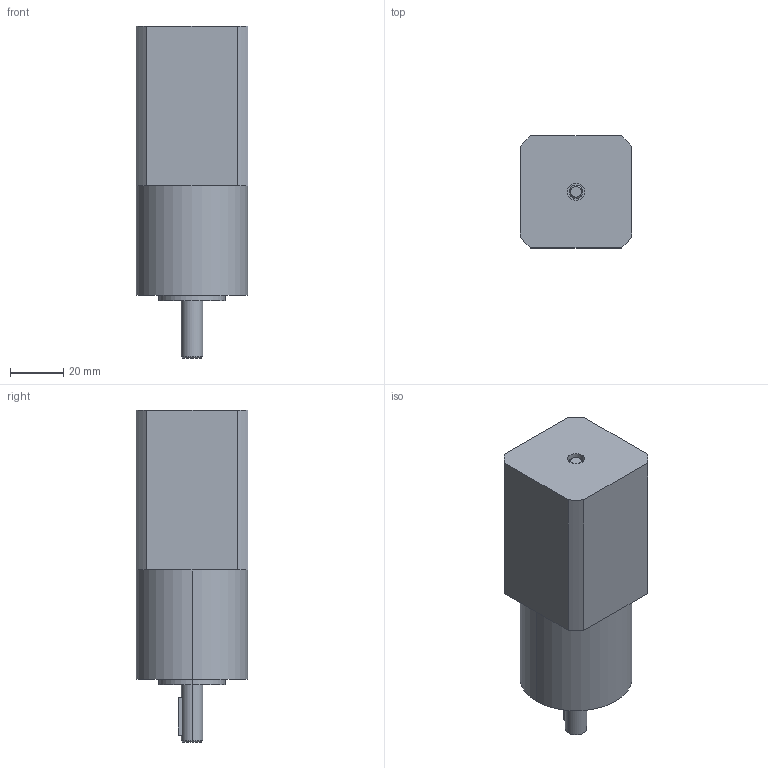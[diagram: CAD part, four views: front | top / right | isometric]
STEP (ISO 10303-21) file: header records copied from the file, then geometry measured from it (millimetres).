
FILE_DESCRIPTION (( 'STEP AP203' ), '1' );
FILE_NAME ('42CM08-RD05.STEP', '2021-04-23T03:59:48', ( 'Owner' ), ( 'Organization' ), 'SwSTEP 2.0', 'SolidWorks 2018', '' );
FILE_SCHEMA (( 'CONFIG_CONTROL_DESIGN' ));
Length unit declared in the file: millimetre
Products named in the file (1): 42CM08-RD05
Bounding box: 42 x 42 x 124.5 mm (x, y, z)
Volume: 162584.3 mm3; surface area: 19577.4 mm2
Topology: 1 solids, 1 shells, 56 faces, 128 edges, 76 vertices
Faces by surface type: cylinder 24, plane 20, cone 12
Entity records: 1603 total; most frequent: DIRECTION 292, CARTESIAN_POINT 253, ORIENTED_EDGE 240, EDGE_CURVE 120, AXIS2_PLACEMENT_3D 115, VERTEX_POINT 76, EDGE_LOOP 66, VECTOR 62
